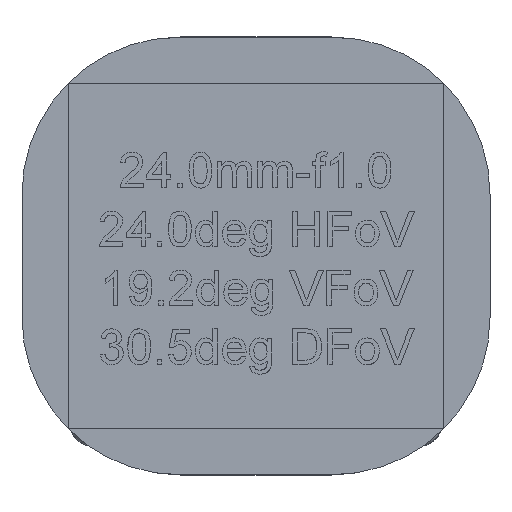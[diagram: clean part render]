
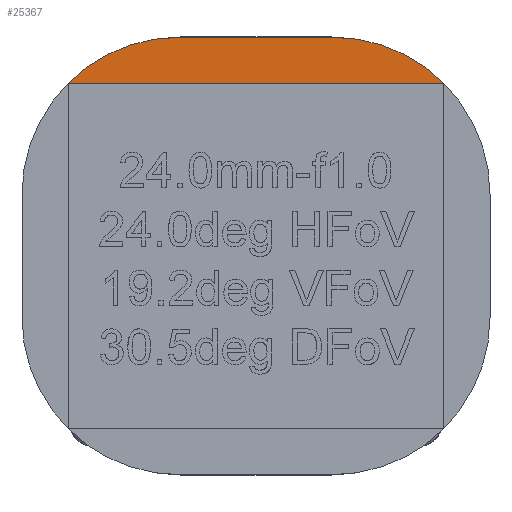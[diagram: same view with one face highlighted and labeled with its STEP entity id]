
A CAD part, top view. The second image highlights one B-rep face of the part: STEP entity #25367.
In plain terms, the highlighted planar face has unit normal (0, 0, 1).
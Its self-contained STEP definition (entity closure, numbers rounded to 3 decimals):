
#6249 = VERTEX_POINT ( 'NONE', #175495 ) ;
#13908 = DIRECTION ( 'NONE',  ( 0., 0., 1. ) ) ;
#19919 = CARTESIAN_POINT ( 'NONE',  ( -6.527, 18.574, 58.67 ) ) ;
#23625 = CIRCLE ( 'NONE', #69201, 13.349 ) ;
#25367 = ADVANCED_FACE ( 'NONE', ( #171003 ), #226207, .F. ) ;
#29615 = EDGE_CURVE ( 'NONE', #317004, #6249, #23625, .T. ) ;
#42362 = CARTESIAN_POINT ( 'NONE',  ( -6.527, 5.225, 58.67 ) ) ;
#46015 = VECTOR ( 'NONE', #213947, 1000. ) ;
#49388 = EDGE_CURVE ( 'NONE', #76585, #147139, #288082, .T. ) ;
#64539 = EDGE_CURVE ( 'NONE', #6249, #76585, #242448, .T. ) ;
#69201 = AXIS2_PLACEMENT_3D ( 'NONE', #102800, #131192, #269981 ) ;
#71148 = DIRECTION ( 'NONE',  ( 0., 0., -1. ) ) ;
#76585 = VERTEX_POINT ( 'NONE', #78261 ) ;
#78261 = CARTESIAN_POINT ( 'NONE',  ( -6.527, 18.574, 58.67 ) ) ;
#79876 = EDGE_CURVE ( 'NONE', #317004, #147139, #319695, .T. ) ;
#102800 = CARTESIAN_POINT ( 'NONE',  ( 6.527, 5.225, 58.67 ) ) ;
#107940 = DIRECTION ( 'NONE',  ( -1., 0., 0. ) ) ;
#110331 = CARTESIAN_POINT ( 'NONE',  ( -15.967, 14.664, 58.67 ) ) ;
#124566 = CARTESIAN_POINT ( 'NONE',  ( 6.527, 5.225, 58.67 ) ) ;
#131008 = CARTESIAN_POINT ( 'NONE',  ( 0., 14.664, 58.67 ) ) ;
#131192 = DIRECTION ( 'NONE',  ( 0., 0., 1. ) ) ;
#137984 = ORIENTED_EDGE ( 'NONE', *, *, #49388, .T. ) ;
#147139 = VERTEX_POINT ( 'NONE', #110331 ) ;
#153042 = DIRECTION ( 'NONE',  ( -1., 0., 0. ) ) ;
#171003 = FACE_OUTER_BOUND ( 'NONE', #254930, .T. ) ;
#175495 = CARTESIAN_POINT ( 'NONE',  ( 6.527, 18.574, 58.67 ) ) ;
#178409 = AXIS2_PLACEMENT_3D ( 'NONE', #124566, #71148, #153042 ) ;
#179532 = VECTOR ( 'NONE', #107940, 1000. ) ;
#213947 = DIRECTION ( 'NONE',  ( -1., 0., 0. ) ) ;
#226207 = PLANE ( 'NONE',  #178409 ) ;
#230929 = ORIENTED_EDGE ( 'NONE', *, *, #79876, .F. ) ;
#231423 = CARTESIAN_POINT ( 'NONE',  ( 15.967, 14.664, 58.67 ) ) ;
#242448 = LINE ( 'NONE', #19919, #46015 ) ;
#254930 = EDGE_LOOP ( 'NONE', ( #230929, #285773, #318734, #137984 ) ) ;
#269981 = DIRECTION ( 'NONE',  ( -1., 0., 0. ) ) ;
#285773 = ORIENTED_EDGE ( 'NONE', *, *, #29615, .T. ) ;
#288082 = CIRCLE ( 'NONE', #327895, 13.349 ) ;
#314568 = DIRECTION ( 'NONE',  ( -1., 0., 0. ) ) ;
#317004 = VERTEX_POINT ( 'NONE', #231423 ) ;
#318734 = ORIENTED_EDGE ( 'NONE', *, *, #64539, .T. ) ;
#319695 = LINE ( 'NONE', #131008, #179532 ) ;
#327895 = AXIS2_PLACEMENT_3D ( 'NONE', #42362, #13908, #314568 ) ;
